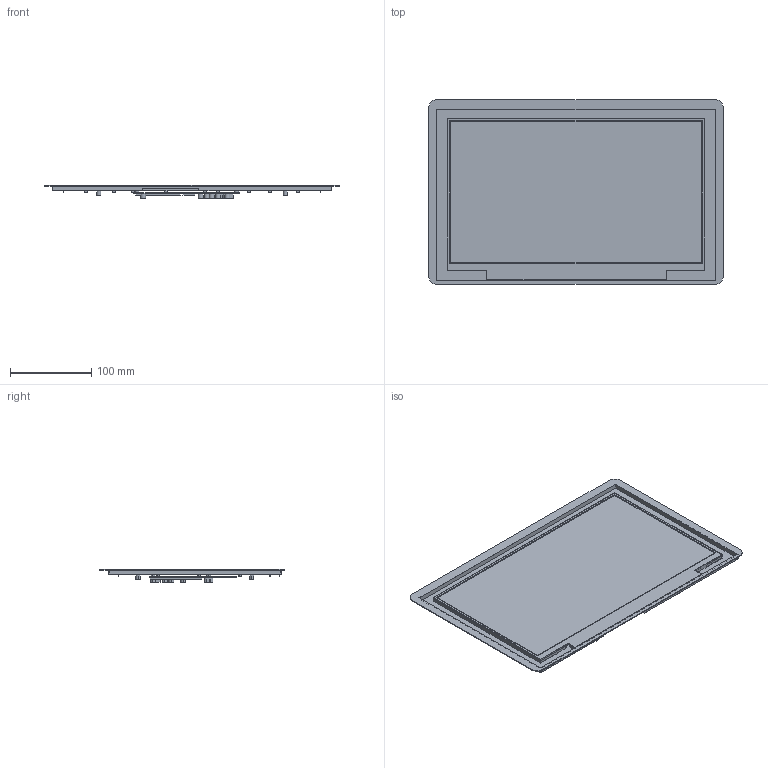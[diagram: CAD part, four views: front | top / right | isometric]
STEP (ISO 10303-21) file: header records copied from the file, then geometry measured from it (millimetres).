
FILE_DESCRIPTION((''),'2;1');
FILE_NAME('DMG9108C140-03WTR','2022-04-28T',('Administrator'),(''),'PRO/ENGINEER BY PARAMETRIC TECHNOLOGY CORPORATION, 2011310','PRO/ENGINEER BY PARAMETRIC TECHNOLOGY CORPORATION, 2011310','');
FILE_SCHEMA(('CONFIG_CONTROL_DESIGN','SHAPE_APPEARANCE_LAYERS_GROUPS'));
Length unit declared in the file: millimetre
Products named in the file (1): DMG9108C140-03WTR
Bounding box: 362.97 x 227.65 x 16.2 mm (x, y, z)
Volume: 235398.9 mm3; surface area: 344483.1 mm2
Topology: 1 solids, 1 shells, 543 faces, 1606 edges, 1050 vertices
Faces by surface type: plane 381, cylinder 162
Entity records: 22017 total; most frequent: ORIENTED_EDGE 3212, CARTESIAN_POINT 3199, DIRECTION 3016, EDGE_CURVE 1606, VECTOR 1282, LINE 1282, VERTEX_POINT 1050, AXIS2_PLACEMENT_3D 867
